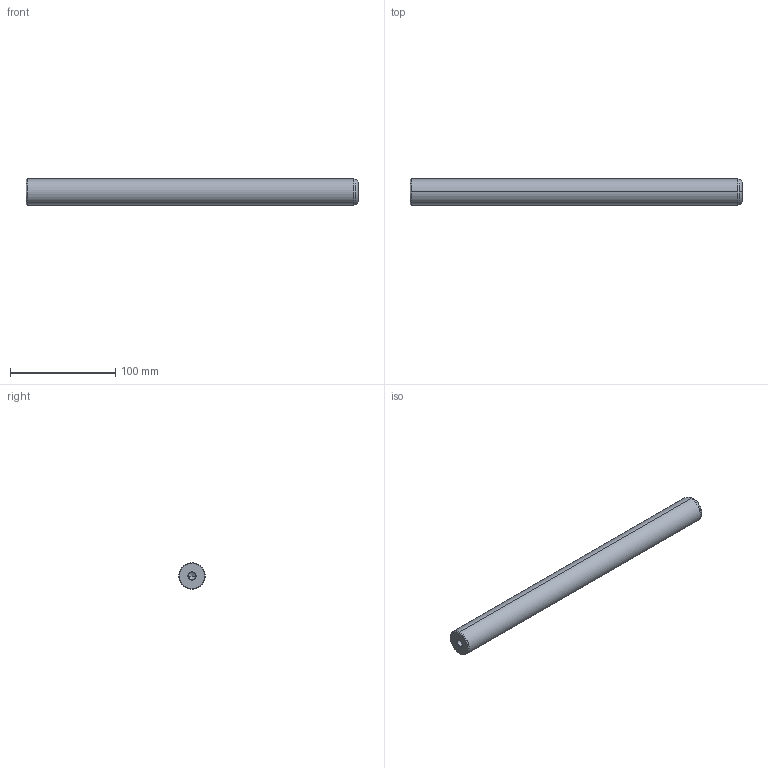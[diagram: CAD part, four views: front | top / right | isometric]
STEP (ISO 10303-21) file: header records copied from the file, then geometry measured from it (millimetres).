
FILE_DESCRIPTION(('CATIA V5 STEP Exchange'),'2;1');
FILE_NAME('C:\Users\Utente\Desktop\IO LAVORO\3D X SITO CF\X SITO\720\720-25x315.stp','2021-01-01T12:38:42+00:00',('none'),('none'),'CATIA Version 5 Release 20 GA (IN-10)','CATIA V5 STEP AP203','none');
FILE_SCHEMA(('CONFIG_CONTROL_DESIGN'));
Length unit declared in the file: millimetre
Products named in the file (1): 720-25x315
Bounding box: 315 x 25 x 25 mm (x, y, z)
Volume: 152648.6 mm3; surface area: 26550.7 mm2
Topology: 1 solids, 1 shells, 22 faces, 62 edges, 40 vertices
Faces by surface type: cone 12, cylinder 6, plane 2, torus 2
Entity records: 806 total; most frequent: CARTESIAN_POINT 229, ORIENTED_EDGE 116, DIRECTION 93, EDGE_CURVE 58, AXIS2_PLACEMENT_3D 54, VERTEX_POINT 40, CIRCLE 31, EDGE_LOOP 24
